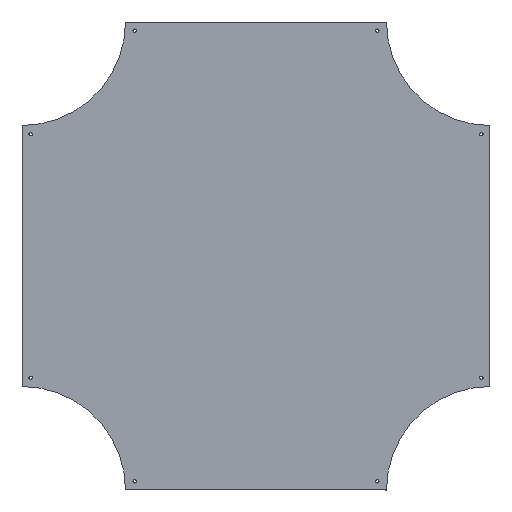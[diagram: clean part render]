
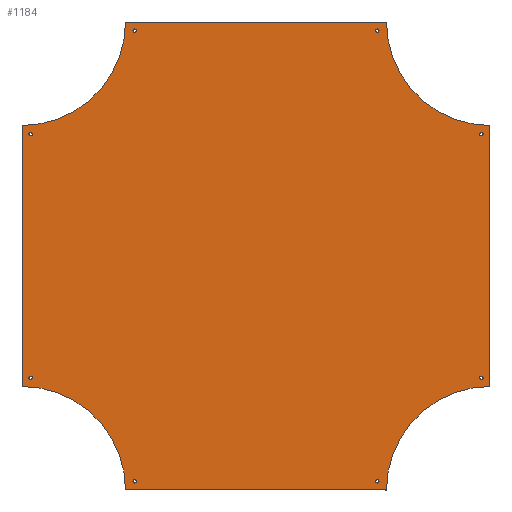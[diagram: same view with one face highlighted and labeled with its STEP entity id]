
A CAD part, top view. The second image highlights one B-rep face of the part: STEP entity #1184.
In plain terms, the highlighted planar face has unit normal (0, 0, 1).
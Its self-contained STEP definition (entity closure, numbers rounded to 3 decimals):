
#86=FACE_BOUND('',#177,.T.);
#87=FACE_BOUND('',#178,.T.);
#88=FACE_BOUND('',#179,.T.);
#89=FACE_BOUND('',#180,.T.);
#90=FACE_BOUND('',#181,.T.);
#91=FACE_BOUND('',#182,.T.);
#92=FACE_BOUND('',#183,.T.);
#93=FACE_BOUND('',#184,.T.);
#102=FACE_OUTER_BOUND('',#176,.T.);
#176=EDGE_LOOP('',(#810,#811,#812,#813,#814,#815,#816,#817));
#177=EDGE_LOOP('',(#818,#819));
#178=EDGE_LOOP('',(#820,#821));
#179=EDGE_LOOP('',(#822,#823));
#180=EDGE_LOOP('',(#824,#825));
#181=EDGE_LOOP('',(#826,#827));
#182=EDGE_LOOP('',(#828,#829));
#183=EDGE_LOOP('',(#830,#831));
#184=EDGE_LOOP('',(#832,#833));
#266=CIRCLE('',#1270,298.5);
#267=CIRCLE('',#1271,298.5);
#268=CIRCLE('',#1272,298.5);
#269=CIRCLE('',#1273,298.5);
#270=CIRCLE('',#1274,5.);
#271=CIRCLE('',#1275,5.);
#272=CIRCLE('',#1276,5.);
#273=CIRCLE('',#1277,5.);
#274=CIRCLE('',#1278,5.);
#275=CIRCLE('',#1279,5.);
#276=CIRCLE('',#1280,5.);
#277=CIRCLE('',#1281,5.);
#278=CIRCLE('',#1282,5.);
#279=CIRCLE('',#1283,5.);
#280=CIRCLE('',#1284,5.);
#281=CIRCLE('',#1285,5.);
#282=CIRCLE('',#1286,5.);
#283=CIRCLE('',#1287,5.);
#284=CIRCLE('',#1288,5.);
#285=CIRCLE('',#1289,5.);
#338=LINE('',#1839,#434);
#339=LINE('',#1843,#435);
#340=LINE('',#1847,#436);
#341=LINE('',#1851,#437);
#434=VECTOR('',#1430,304.8);
#435=VECTOR('',#1433,304.8);
#436=VECTOR('',#1436,304.8);
#437=VECTOR('',#1439,304.8);
#530=VERTEX_POINT('',#1837);
#531=VERTEX_POINT('',#1838);
#532=VERTEX_POINT('',#1840);
#533=VERTEX_POINT('',#1842);
#534=VERTEX_POINT('',#1844);
#535=VERTEX_POINT('',#1846);
#536=VERTEX_POINT('',#1848);
#537=VERTEX_POINT('',#1850);
#538=VERTEX_POINT('',#1853);
#539=VERTEX_POINT('',#1854);
#540=VERTEX_POINT('',#1857);
#541=VERTEX_POINT('',#1858);
#542=VERTEX_POINT('',#1861);
#543=VERTEX_POINT('',#1862);
#544=VERTEX_POINT('',#1865);
#545=VERTEX_POINT('',#1866);
#546=VERTEX_POINT('',#1869);
#547=VERTEX_POINT('',#1870);
#548=VERTEX_POINT('',#1873);
#549=VERTEX_POINT('',#1874);
#550=VERTEX_POINT('',#1877);
#551=VERTEX_POINT('',#1878);
#552=VERTEX_POINT('',#1881);
#553=VERTEX_POINT('',#1882);
#642=EDGE_CURVE('',#530,#531,#338,.T.);
#643=EDGE_CURVE('',#531,#532,#266,.T.);
#644=EDGE_CURVE('',#532,#533,#339,.T.);
#645=EDGE_CURVE('',#533,#534,#267,.T.);
#646=EDGE_CURVE('',#534,#535,#340,.T.);
#647=EDGE_CURVE('',#535,#536,#268,.T.);
#648=EDGE_CURVE('',#536,#537,#341,.T.);
#649=EDGE_CURVE('',#537,#530,#269,.T.);
#650=EDGE_CURVE('',#538,#539,#270,.T.);
#651=EDGE_CURVE('',#539,#538,#271,.T.);
#652=EDGE_CURVE('',#540,#541,#272,.T.);
#653=EDGE_CURVE('',#541,#540,#273,.T.);
#654=EDGE_CURVE('',#542,#543,#274,.T.);
#655=EDGE_CURVE('',#543,#542,#275,.T.);
#656=EDGE_CURVE('',#544,#545,#276,.T.);
#657=EDGE_CURVE('',#545,#544,#277,.T.);
#658=EDGE_CURVE('',#546,#547,#278,.T.);
#659=EDGE_CURVE('',#547,#546,#279,.T.);
#660=EDGE_CURVE('',#548,#549,#280,.T.);
#661=EDGE_CURVE('',#549,#548,#281,.T.);
#662=EDGE_CURVE('',#550,#551,#282,.T.);
#663=EDGE_CURVE('',#551,#550,#283,.T.);
#664=EDGE_CURVE('',#552,#553,#284,.T.);
#665=EDGE_CURVE('',#553,#552,#285,.T.);
#810=ORIENTED_EDGE('',*,*,#642,.T.);
#811=ORIENTED_EDGE('',*,*,#643,.T.);
#812=ORIENTED_EDGE('',*,*,#644,.T.);
#813=ORIENTED_EDGE('',*,*,#645,.T.);
#814=ORIENTED_EDGE('',*,*,#646,.T.);
#815=ORIENTED_EDGE('',*,*,#647,.T.);
#816=ORIENTED_EDGE('',*,*,#648,.T.);
#817=ORIENTED_EDGE('',*,*,#649,.T.);
#818=ORIENTED_EDGE('',*,*,#650,.T.);
#819=ORIENTED_EDGE('',*,*,#651,.T.);
#820=ORIENTED_EDGE('',*,*,#652,.T.);
#821=ORIENTED_EDGE('',*,*,#653,.T.);
#822=ORIENTED_EDGE('',*,*,#654,.T.);
#823=ORIENTED_EDGE('',*,*,#655,.T.);
#824=ORIENTED_EDGE('',*,*,#656,.T.);
#825=ORIENTED_EDGE('',*,*,#657,.T.);
#826=ORIENTED_EDGE('',*,*,#658,.T.);
#827=ORIENTED_EDGE('',*,*,#659,.T.);
#828=ORIENTED_EDGE('',*,*,#660,.T.);
#829=ORIENTED_EDGE('',*,*,#661,.T.);
#830=ORIENTED_EDGE('',*,*,#662,.T.);
#831=ORIENTED_EDGE('',*,*,#663,.T.);
#832=ORIENTED_EDGE('',*,*,#664,.T.);
#833=ORIENTED_EDGE('',*,*,#665,.T.);
#1146=PLANE('',#1269);
#1184=ADVANCED_FACE('',(#102,#86,#87,#88,#89,#90,#91,#92,#93),#1146,.T.);
#1269=AXIS2_PLACEMENT_3D('',#1836,#1428,#1429);
#1270=AXIS2_PLACEMENT_3D('',#1841,#1431,#1432);
#1271=AXIS2_PLACEMENT_3D('',#1845,#1434,#1435);
#1272=AXIS2_PLACEMENT_3D('',#1849,#1437,#1438);
#1273=AXIS2_PLACEMENT_3D('',#1852,#1440,#1441);
#1274=AXIS2_PLACEMENT_3D('',#1855,#1442,#1443);
#1275=AXIS2_PLACEMENT_3D('',#1856,#1444,#1445);
#1276=AXIS2_PLACEMENT_3D('',#1859,#1446,#1447);
#1277=AXIS2_PLACEMENT_3D('',#1860,#1448,#1449);
#1278=AXIS2_PLACEMENT_3D('',#1863,#1450,#1451);
#1279=AXIS2_PLACEMENT_3D('',#1864,#1452,#1453);
#1280=AXIS2_PLACEMENT_3D('',#1867,#1454,#1455);
#1281=AXIS2_PLACEMENT_3D('',#1868,#1456,#1457);
#1282=AXIS2_PLACEMENT_3D('',#1871,#1458,#1459);
#1283=AXIS2_PLACEMENT_3D('',#1872,#1460,#1461);
#1284=AXIS2_PLACEMENT_3D('',#1875,#1462,#1463);
#1285=AXIS2_PLACEMENT_3D('',#1876,#1464,#1465);
#1286=AXIS2_PLACEMENT_3D('',#1879,#1466,#1467);
#1287=AXIS2_PLACEMENT_3D('',#1880,#1468,#1469);
#1288=AXIS2_PLACEMENT_3D('',#1883,#1470,#1471);
#1289=AXIS2_PLACEMENT_3D('',#1884,#1472,#1473);
#1428=DIRECTION('center_axis',(0.,0.,1.));
#1429=DIRECTION('ref_axis',(0.,-1.,0.));
#1430=DIRECTION('',(0.,1.,0.));
#1431=DIRECTION('center_axis',(0.,0.,-1.));
#1432=DIRECTION('ref_axis',(1.,0.,0.));
#1433=DIRECTION('',(-1.,0.,0.));
#1434=DIRECTION('center_axis',(0.,0.,-1.));
#1435=DIRECTION('ref_axis',(1.,0.,0.));
#1436=DIRECTION('',(0.,-1.,0.));
#1437=DIRECTION('center_axis',(0.,0.,-1.));
#1438=DIRECTION('ref_axis',(1.,0.,0.));
#1439=DIRECTION('',(1.,0.,0.));
#1440=DIRECTION('center_axis',(0.,0.,-1.));
#1441=DIRECTION('ref_axis',(1.,0.,0.));
#1442=DIRECTION('center_axis',(0.,0.,-1.));
#1443=DIRECTION('ref_axis',(1.,0.,0.));
#1444=DIRECTION('center_axis',(0.,0.,-1.));
#1445=DIRECTION('ref_axis',(1.,0.,0.));
#1446=DIRECTION('center_axis',(0.,0.,-1.));
#1447=DIRECTION('ref_axis',(1.,0.,0.));
#1448=DIRECTION('center_axis',(0.,0.,-1.));
#1449=DIRECTION('ref_axis',(1.,0.,0.));
#1450=DIRECTION('center_axis',(0.,0.,-1.));
#1451=DIRECTION('ref_axis',(1.,0.,0.));
#1452=DIRECTION('center_axis',(0.,0.,-1.));
#1453=DIRECTION('ref_axis',(1.,0.,0.));
#1454=DIRECTION('center_axis',(0.,0.,-1.));
#1455=DIRECTION('ref_axis',(1.,0.,0.));
#1456=DIRECTION('center_axis',(0.,0.,-1.));
#1457=DIRECTION('ref_axis',(1.,0.,0.));
#1458=DIRECTION('center_axis',(0.,0.,-1.));
#1459=DIRECTION('ref_axis',(1.,0.,0.));
#1460=DIRECTION('center_axis',(0.,0.,-1.));
#1461=DIRECTION('ref_axis',(1.,0.,0.));
#1462=DIRECTION('center_axis',(0.,0.,-1.));
#1463=DIRECTION('ref_axis',(1.,0.,0.));
#1464=DIRECTION('center_axis',(0.,0.,-1.));
#1465=DIRECTION('ref_axis',(1.,0.,0.));
#1466=DIRECTION('center_axis',(0.,0.,-1.));
#1467=DIRECTION('ref_axis',(1.,0.,0.));
#1468=DIRECTION('center_axis',(0.,0.,-1.));
#1469=DIRECTION('ref_axis',(1.,0.,0.));
#1470=DIRECTION('center_axis',(0.,0.,-1.));
#1471=DIRECTION('ref_axis',(1.,0.,0.));
#1472=DIRECTION('center_axis',(0.,0.,-1.));
#1473=DIRECTION('ref_axis',(1.,0.,0.));
#1836=CARTESIAN_POINT('Origin',(-376.5,-675.,1.5));
#1837=CARTESIAN_POINT('',(675.,-376.5,1.5));
#1838=CARTESIAN_POINT('',(675.,376.5,1.5));
#1839=CARTESIAN_POINT('',(675.,-376.5,1.5));
#1840=CARTESIAN_POINT('',(376.5,675.,1.5));
#1841=CARTESIAN_POINT('Origin',(675.,675.,1.5));
#1842=CARTESIAN_POINT('',(-376.5,675.,1.5));
#1843=CARTESIAN_POINT('',(376.5,675.,1.5));
#1844=CARTESIAN_POINT('',(-675.,376.5,1.5));
#1845=CARTESIAN_POINT('Origin',(-675.,675.,1.5));
#1846=CARTESIAN_POINT('',(-675.,-376.5,1.5));
#1847=CARTESIAN_POINT('',(-675.,376.5,1.5));
#1848=CARTESIAN_POINT('',(-376.5,-675.,1.5));
#1849=CARTESIAN_POINT('Origin',(-675.,-675.,1.5));
#1850=CARTESIAN_POINT('',(376.5,-675.,1.5));
#1851=CARTESIAN_POINT('',(-376.5,-675.,1.5));
#1852=CARTESIAN_POINT('Origin',(675.,-675.,1.5));
#1853=CARTESIAN_POINT('',(-645.,351.5,1.5));
#1854=CARTESIAN_POINT('',(-655.,351.5,1.5));
#1855=CARTESIAN_POINT('Origin',(-650.,351.5,1.5));
#1856=CARTESIAN_POINT('Origin',(-650.,351.5,1.5));
#1857=CARTESIAN_POINT('',(-645.,-351.5,1.5));
#1858=CARTESIAN_POINT('',(-655.,-351.5,1.5));
#1859=CARTESIAN_POINT('Origin',(-650.,-351.5,1.5));
#1860=CARTESIAN_POINT('Origin',(-650.,-351.5,1.5));
#1861=CARTESIAN_POINT('',(355.,650.,1.5));
#1862=CARTESIAN_POINT('',(345.,650.,1.5));
#1863=CARTESIAN_POINT('Origin',(350.,650.,1.5));
#1864=CARTESIAN_POINT('Origin',(350.,650.,1.5));
#1865=CARTESIAN_POINT('',(-345.,650.,1.5));
#1866=CARTESIAN_POINT('',(-355.,650.,1.5));
#1867=CARTESIAN_POINT('Origin',(-350.,650.,1.5));
#1868=CARTESIAN_POINT('Origin',(-350.,650.,1.5));
#1869=CARTESIAN_POINT('',(655.,351.5,1.5));
#1870=CARTESIAN_POINT('',(645.,351.5,1.5));
#1871=CARTESIAN_POINT('Origin',(650.,351.5,1.5));
#1872=CARTESIAN_POINT('Origin',(650.,351.5,1.5));
#1873=CARTESIAN_POINT('',(655.,-351.5,1.5));
#1874=CARTESIAN_POINT('',(645.,-351.5,1.5));
#1875=CARTESIAN_POINT('Origin',(650.,-351.5,1.5));
#1876=CARTESIAN_POINT('Origin',(650.,-351.5,1.5));
#1877=CARTESIAN_POINT('',(-345.,-650.,1.5));
#1878=CARTESIAN_POINT('',(-355.,-650.,1.5));
#1879=CARTESIAN_POINT('Origin',(-350.,-650.,1.5));
#1880=CARTESIAN_POINT('Origin',(-350.,-650.,1.5));
#1881=CARTESIAN_POINT('',(355.,-650.,1.5));
#1882=CARTESIAN_POINT('',(345.,-650.,1.5));
#1883=CARTESIAN_POINT('Origin',(350.,-650.,1.5));
#1884=CARTESIAN_POINT('Origin',(350.,-650.,1.5));
